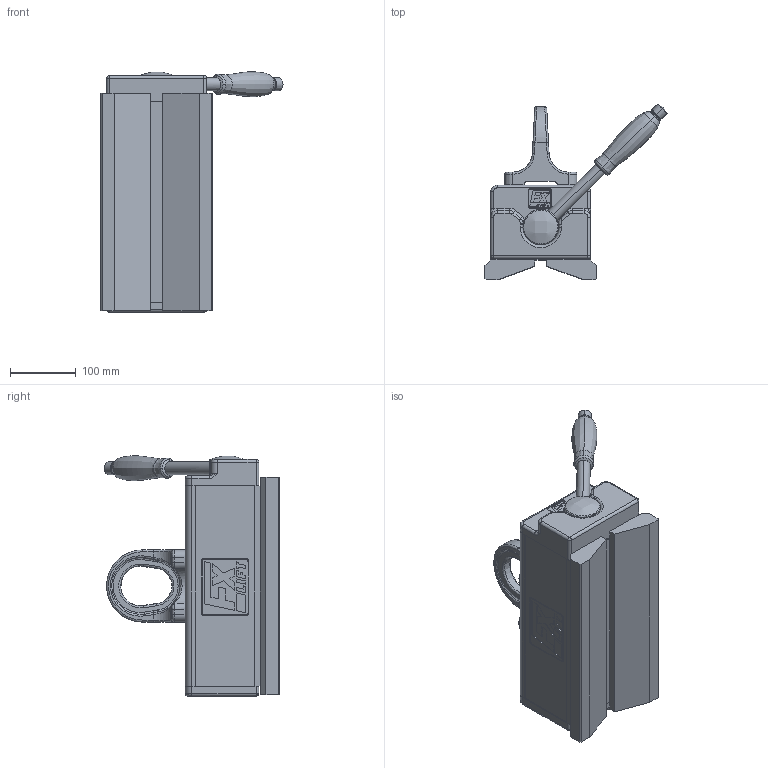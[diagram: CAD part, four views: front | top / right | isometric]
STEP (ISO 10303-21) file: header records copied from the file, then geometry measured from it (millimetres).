
FILE_DESCRIPTION (( 'STEP AP203' ), '1' );
FILE_NAME ('FX R 750 Vertrieb.STEP', '2016-09-22T06:45:27', ( '' ), ( '' ), 'SwSTEP 2.0', 'SolidWorks 2013', '' );
FILE_SCHEMA (( 'CONFIG_CONTROL_DESIGN' ));
Length unit declared in the file: millimetre
Products named in the file (1): FX R 750 Vertrieb
Bounding box: 277.57 x 267.67 x 366.44 mm (x, y, z)
Volume: 7449648 mm3; surface area: 362311.5 mm2
Topology: 1 solids, 1 shells, 757 faces, 1951 edges, 1234 vertices
Faces by surface type: plane 431, bspline 142, cylinder 124, cone 29, torus 27, sphere 4
Entity records: 36079 total; most frequent: CARTESIAN_POINT 18533, ORIENTED_EDGE 3854, DIRECTION 3207, EDGE_CURVE 1927, LINE 1263, VECTOR 1263, VERTEX_POINT 1234, AXIS2_PLACEMENT_3D 972
